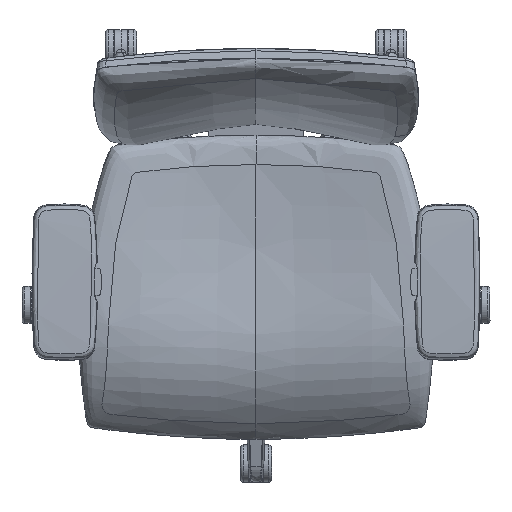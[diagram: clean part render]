
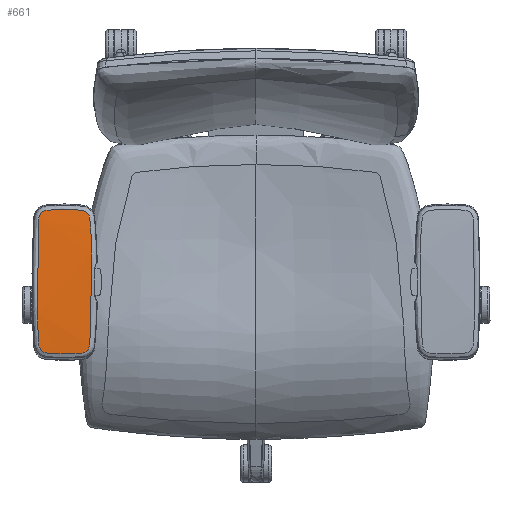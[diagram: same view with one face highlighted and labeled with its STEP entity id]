
A CAD part, top view. The second image highlights one B-rep face of the part: STEP entity #661.
In plain terms, the highlighted free-form (B-spline) face has degree [1, 2] with [2, 3] control points.
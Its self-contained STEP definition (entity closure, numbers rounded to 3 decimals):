
#661=ADVANCED_FACE('',(#1137),#6882,.T.);
#1137=FACE_OUTER_BOUND('',#1613,.T.);
#1613=EDGE_LOOP('',(#2905));
#2905=ORIENTED_EDGE('',*,*,#4472,.T.);
#4472=EDGE_CURVE('',#6410,#6410,#5239,.T.);
#5239=(
BOUNDED_CURVE()
B_SPLINE_CURVE(3,(#22366,#22367,#22368,#22369,#22370,#22371,#22372,#22373,
#22374,#22375,#22376,#22377,#22378,#22379,#22380,#22381,#22382,#22383,#22384,
#22385,#22386,#22387,#22388,#22389,#22390,#22391,#22392,#22393,#22394,#22395,
#22396,#22397,#22398,#22399,#22400,#22401,#22402,#22403,#22404,#22405,#22406,
#22407,#22408,#22409,#22410,#22411,#22412,#22413,#22414,#22415,#22416,#22417,
#22418,#22419,#22420,#22421,#22422,#22423,#22424,#22425,#22426,#22427,#22428,
#22429,#22430,#22431,#22432,#22433,#22434,#22435,#22436,#22437,#22438,#22439,
#22440,#22441,#22442,#22443,#22444,#22445,#22446,#22447,#22448,#22449,#22450,
#22451,#22452,#22453,#22454,#22455,#22456,#22457,#22458,#22459,#22460,#22461),
 .UNSPECIFIED.,.T.,.F.)
B_SPLINE_CURVE_WITH_KNOTS((4,3,3,3,1,1,1,3,3,3,3,1,1,1,3,3,3,3,1,3,3,3,
3,3,3,1,3,3,3,3,1,1,1,3,3,1,3,1,1,3,3,4),(0.,17.994,
22.459,26.53,30.983,35.353,39.691,
41.839,45.129,49.611,54.221,63.144,
136.728,211.306,220.327,224.932,229.372,
232.657,236.174,241.693,247.814,256.556,
292.533,296.999,301.014,309.926,316.501,
319.856,324.321,328.92,337.821,411.275,
485.72,494.715,499.312,503.598,507.054,
513.596,518.032,522.423,531.119,549.089),
 .UNSPECIFIED.)
CURVE()
GEOMETRIC_REPRESENTATION_ITEM()
RATIONAL_B_SPLINE_CURVE((1.,1.,1.,1.,1.,1.,
1.,1.,1.,1.,1.,1.,1.,1.,1.,
1.,1.,1.,1.,1.,1.,1.,1.,1.,1.,1.,1.,1.,1.,
1.,1.,1.,1.,1.,1.,1.,1.,1.,1.,1.,1.,
1.,1.,1.,1.,1.,1.,1.,1.,1.,1.,
1.,1.,1.,1.,1.,1.,1.,1.,1.,1.,1.,1.,1.,1.,
1.,1.,1.,1.,1.,1.,1.,1.,1.,1.,1.,1.,1.,1.,1.,1.,1.,
1.,1.,1.,1.,1.,1.,1.,1.,1.,
1.,1.,1.,1.,1.))
REPRESENTATION_ITEM('')
);
#6410=VERTEX_POINT('',#21996);
#6882=(
BOUNDED_SURFACE()
B_SPLINE_SURFACE(1,2,((#21980,#21981,#21982),(#21983,#21984,#21985)),
 .UNSPECIFIED.,.F.,.F.,.F.)
B_SPLINE_SURFACE_WITH_KNOTS((2,2),(3,3),(0.,236.445),(-112.675,
297.535),.UNSPECIFIED.)
GEOMETRIC_REPRESENTATION_ITEM()
RATIONAL_B_SPLINE_SURFACE(((1.,0.993,1.),(1.,0.993,
1.)))
REPRESENTATION_ITEM('')
SURFACE()
);
#21980=CARTESIAN_POINT('',(-401.382,-261.156,666.864));
#21981=CARTESIAN_POINT('',(-401.382,-55.747,683.83));
#21982=CARTESIAN_POINT('',(-401.382,147.757,651.177));
#21983=CARTESIAN_POINT('',(-164.937,-261.156,666.864));
#21984=CARTESIAN_POINT('',(-164.937,-55.747,683.83));
#21985=CARTESIAN_POINT('',(-164.937,147.757,651.177));
#21996=CARTESIAN_POINT('',(-283.162,52.245,663.736));
#22366=CARTESIAN_POINT('',(-283.162,52.245,663.736));
#22367=CARTESIAN_POINT('',(-289.16,52.246,663.736));
#22368=CARTESIAN_POINT('',(-295.158,52.021,663.759));
#22369=CARTESIAN_POINT('',(-301.139,51.566,663.805));
#22370=CARTESIAN_POINT('',(-302.623,51.453,663.817));
#22371=CARTESIAN_POINT('',(-304.106,51.332,663.829));
#22372=CARTESIAN_POINT('',(-305.587,51.183,663.845));
#22373=CARTESIAN_POINT('',(-306.936,51.042,663.859));
#22374=CARTESIAN_POINT('',(-308.294,50.962,663.867));
#22375=CARTESIAN_POINT('',(-309.631,50.723,663.891));
#22376=CARTESIAN_POINT('',(-311.087,50.451,663.919));
#22377=CARTESIAN_POINT('',(-313.91,49.49,664.017));
#22378=CARTESIAN_POINT('',(-317.407,46.739,664.293));
#22379=CARTESIAN_POINT('',(-319.37,43.641,664.599));
#22380=CARTESIAN_POINT('',(-320.075,41.594,664.796));
#22381=CARTESIAN_POINT('',(-320.263,40.903,664.862));
#22382=CARTESIAN_POINT('',(-320.549,39.844,664.964));
#22383=CARTESIAN_POINT('',(-320.702,38.753,665.068));
#22384=CARTESIAN_POINT('',(-320.789,37.661,665.17));
#22385=CARTESIAN_POINT('',(-320.907,36.172,665.31));
#22386=CARTESIAN_POINT('',(-320.971,34.679,665.449));
#22387=CARTESIAN_POINT('',(-321.056,33.188,665.585));
#22388=CARTESIAN_POINT('',(-321.143,31.654,665.725));
#22389=CARTESIAN_POINT('',(-321.224,30.119,665.863));
#22390=CARTESIAN_POINT('',(-321.304,28.584,665.999));
#22391=CARTESIAN_POINT('',(-321.458,25.613,666.263));
#22392=CARTESIAN_POINT('',(-322.81,-1.868,668.625));
#22393=CARTESIAN_POINT('',(-324.033,-54.36,671.851));
#22394=CARTESIAN_POINT('',(-322.817,-106.976,672.776));
#22395=CARTESIAN_POINT('',(-321.443,-134.923,672.577));
#22396=CARTESIAN_POINT('',(-321.286,-137.938,672.548));
#22397=CARTESIAN_POINT('',(-321.205,-139.477,672.533));
#22398=CARTESIAN_POINT('',(-321.125,-141.017,672.515));
#22399=CARTESIAN_POINT('',(-321.037,-142.556,672.496));
#22400=CARTESIAN_POINT('',(-320.951,-144.039,672.478));
#22401=CARTESIAN_POINT('',(-320.893,-145.524,672.457));
#22402=CARTESIAN_POINT('',(-320.768,-147.005,672.435));
#22403=CARTESIAN_POINT('',(-320.673,-148.099,672.418));
#22404=CARTESIAN_POINT('',(-320.506,-149.191,672.401));
#22405=CARTESIAN_POINT('',(-320.213,-150.251,672.383));
#22406=CARTESIAN_POINT('',(-319.897,-151.383,672.363));
#22407=CARTESIAN_POINT('',(-318.761,-154.212,672.312));
#22408=CARTESIAN_POINT('',(-316.703,-156.518,672.265));
#22409=CARTESIAN_POINT('',(-315.196,-157.578,672.242));
#22410=CARTESIAN_POINT('',(-313.524,-158.753,672.217));
#22411=CARTESIAN_POINT('',(-311.58,-159.533,672.199));
#22412=CARTESIAN_POINT('',(-309.563,-159.845,672.192));
#22413=CARTESIAN_POINT('',(-306.682,-160.287,672.182));
#22414=CARTESIAN_POINT('',(-303.771,-160.488,672.177));
#22415=CARTESIAN_POINT('',(-300.867,-160.715,672.172));
#22416=CARTESIAN_POINT('',(-288.909,-161.629,672.151));
#22417=CARTESIAN_POINT('',(-276.881,-161.6,672.152));
#22418=CARTESIAN_POINT('',(-264.925,-160.673,672.173));
#22419=CARTESIAN_POINT('',(-263.441,-160.557,672.176));
#22420=CARTESIAN_POINT('',(-261.957,-160.432,672.179));
#22421=CARTESIAN_POINT('',(-260.476,-160.281,672.182));
#22422=CARTESIAN_POINT('',(-259.146,-160.14,672.185));
#22423=CARTESIAN_POINT('',(-257.806,-160.059,672.187));
#22424=CARTESIAN_POINT('',(-256.49,-159.81,672.193));
#22425=CARTESIAN_POINT('',(-253.571,-159.263,672.205));
#22426=CARTESIAN_POINT('',(-248.8,-156.644,672.265));
#22427=CARTESIAN_POINT('',(-246.274,-151.937,672.355));
#22428=CARTESIAN_POINT('',(-245.673,-149.828,672.39));
#22429=CARTESIAN_POINT('',(-245.365,-148.748,672.408));
#22430=CARTESIAN_POINT('',(-245.194,-147.633,672.425));
#22431=CARTESIAN_POINT('',(-245.076,-146.518,672.442));
#22432=CARTESIAN_POINT('',(-244.92,-145.031,672.464));
#22433=CARTESIAN_POINT('',(-244.823,-143.54,672.484));
#22434=CARTESIAN_POINT('',(-244.703,-142.051,672.502));
#22435=CARTESIAN_POINT('',(-244.58,-140.516,672.521));
#22436=CARTESIAN_POINT('',(-244.466,-138.981,672.538));
#22437=CARTESIAN_POINT('',(-244.352,-137.445,672.552));
#22438=CARTESIAN_POINT('',(-244.133,-134.475,672.58));
#22439=CARTESIAN_POINT('',(-242.213,-106.977,672.769));
#22440=CARTESIAN_POINT('',(-240.477,-54.491,671.855));
#22441=CARTESIAN_POINT('',(-242.201,-2.061,668.643));
#22442=CARTESIAN_POINT('',(-244.152,25.696,666.255));
#22443=CARTESIAN_POINT('',(-244.374,28.687,665.99));
#22444=CARTESIAN_POINT('',(-244.488,30.215,665.855));
#22445=CARTESIAN_POINT('',(-244.602,31.743,665.717));
#22446=CARTESIAN_POINT('',(-244.726,33.27,665.578));
#22447=CARTESIAN_POINT('',(-244.847,34.694,665.447));
#22448=CARTESIAN_POINT('',(-244.994,37.271,665.209));
#22449=CARTESIAN_POINT('',(-245.39,39.827,664.966));
#22450=CARTESIAN_POINT('',(-245.724,40.931,664.86));
#22451=CARTESIAN_POINT('',(-246.344,43.018,664.66));
#22452=CARTESIAN_POINT('',(-248.171,46.307,664.337));
#22453=CARTESIAN_POINT('',(-252.303,49.457,664.02));
#22454=CARTESIAN_POINT('',(-255.117,50.427,663.922));
#22455=CARTESIAN_POINT('',(-256.563,50.667,663.897));
#22456=CARTESIAN_POINT('',(-259.425,51.134,663.85));
#22457=CARTESIAN_POINT('',(-262.323,51.317,663.831));
#22458=CARTESIAN_POINT('',(-265.21,51.552,663.807));
#22459=CARTESIAN_POINT('',(-271.182,52.027,663.758));
#22460=CARTESIAN_POINT('',(-277.173,52.237,663.737));
#22461=CARTESIAN_POINT('',(-283.162,52.245,663.736));
